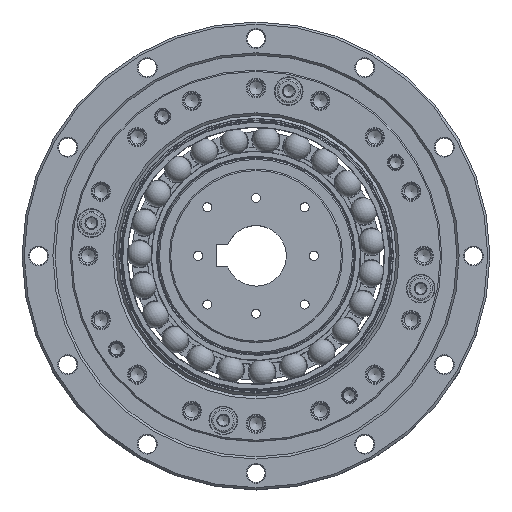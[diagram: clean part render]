
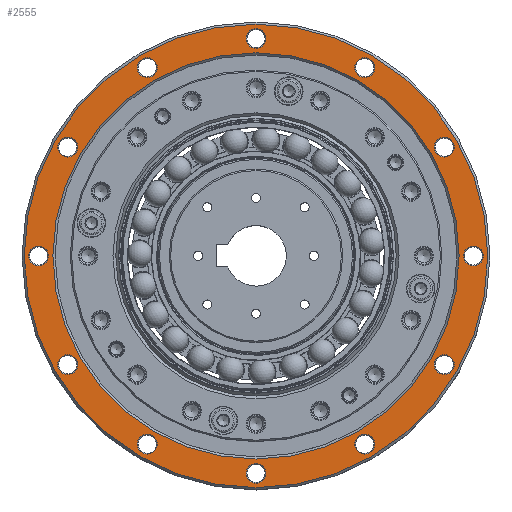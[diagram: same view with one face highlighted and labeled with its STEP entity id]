
A CAD part, top view. The second image highlights one B-rep face of the part: STEP entity #2555.
In plain terms, the highlighted planar face has unit normal (0, 0, 1).
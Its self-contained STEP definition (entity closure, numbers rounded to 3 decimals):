
#2555=ADVANCED_FACE('',(#3779,#3780,#3781,#3782,#3783,#3784,#3785,#3786,
#3787,#3788,#3789,#3790,#3791,#3792),#2972,.F.);
#2972=PLANE('',#11027);
#3779=FACE_BOUND('',#4854,.T.);
#3780=FACE_BOUND('',#4855,.T.);
#3781=FACE_BOUND('',#4856,.T.);
#3782=FACE_BOUND('',#4857,.T.);
#3783=FACE_BOUND('',#4858,.T.);
#3784=FACE_BOUND('',#4859,.T.);
#3785=FACE_BOUND('',#4860,.T.);
#3786=FACE_BOUND('',#4861,.T.);
#3787=FACE_BOUND('',#4862,.T.);
#3788=FACE_BOUND('',#4863,.T.);
#3789=FACE_BOUND('',#4864,.T.);
#3790=FACE_BOUND('',#4865,.T.);
#3791=FACE_BOUND('',#4866,.T.);
#3792=FACE_BOUND('',#4867,.T.);
#4854=EDGE_LOOP('',(#6103));
#4855=EDGE_LOOP('',(#6104));
#4856=EDGE_LOOP('',(#6105));
#4857=EDGE_LOOP('',(#6106));
#4858=EDGE_LOOP('',(#6107));
#4859=EDGE_LOOP('',(#6108));
#4860=EDGE_LOOP('',(#6109));
#4861=EDGE_LOOP('',(#6110));
#4862=EDGE_LOOP('',(#6111));
#4863=EDGE_LOOP('',(#6112));
#4864=EDGE_LOOP('',(#6113));
#4865=EDGE_LOOP('',(#6114));
#4866=EDGE_LOOP('',(#6115));
#4867=EDGE_LOOP('',(#6116));
#6103=ORIENTED_EDGE('',*,*,#8842,.T.);
#6104=ORIENTED_EDGE('',*,*,#8843,.T.);
#6105=ORIENTED_EDGE('',*,*,#8844,.T.);
#6106=ORIENTED_EDGE('',*,*,#8845,.T.);
#6107=ORIENTED_EDGE('',*,*,#8846,.T.);
#6108=ORIENTED_EDGE('',*,*,#8847,.T.);
#6109=ORIENTED_EDGE('',*,*,#8848,.T.);
#6110=ORIENTED_EDGE('',*,*,#8849,.T.);
#6111=ORIENTED_EDGE('',*,*,#8850,.T.);
#6112=ORIENTED_EDGE('',*,*,#8851,.T.);
#6113=ORIENTED_EDGE('',*,*,#8852,.T.);
#6114=ORIENTED_EDGE('',*,*,#8853,.T.);
#6115=ORIENTED_EDGE('',*,*,#8854,.F.);
#6116=ORIENTED_EDGE('',*,*,#8841,.T.);
#7936=VERTEX_POINT('',#16079);
#7937=VERTEX_POINT('',#16082);
#7938=VERTEX_POINT('',#16084);
#7939=VERTEX_POINT('',#16086);
#7940=VERTEX_POINT('',#16088);
#7941=VERTEX_POINT('',#16090);
#7942=VERTEX_POINT('',#16092);
#7943=VERTEX_POINT('',#16094);
#7944=VERTEX_POINT('',#16096);
#7945=VERTEX_POINT('',#16098);
#7946=VERTEX_POINT('',#16100);
#7947=VERTEX_POINT('',#16102);
#7948=VERTEX_POINT('',#16104);
#7949=VERTEX_POINT('',#16106);
#8841=EDGE_CURVE('',#7936,#7936,#9916,.T.);
#8842=EDGE_CURVE('',#7937,#7937,#9917,.T.);
#8843=EDGE_CURVE('',#7938,#7938,#9918,.T.);
#8844=EDGE_CURVE('',#7939,#7939,#9919,.T.);
#8845=EDGE_CURVE('',#7940,#7940,#9920,.T.);
#8846=EDGE_CURVE('',#7941,#7941,#9921,.T.);
#8847=EDGE_CURVE('',#7942,#7942,#9922,.T.);
#8848=EDGE_CURVE('',#7943,#7943,#9923,.T.);
#8849=EDGE_CURVE('',#7944,#7944,#9924,.T.);
#8850=EDGE_CURVE('',#7945,#7945,#9925,.T.);
#8851=EDGE_CURVE('',#7946,#7946,#9926,.T.);
#8852=EDGE_CURVE('',#7947,#7947,#9927,.T.);
#8853=EDGE_CURVE('',#7948,#7948,#9928,.T.);
#8854=EDGE_CURVE('',#7949,#7949,#9929,.T.);
#9916=CIRCLE('',#11012,73.8);
#9917=CIRCLE('',#11014,3.6);
#9918=CIRCLE('',#11015,3.6);
#9919=CIRCLE('',#11016,3.6);
#9920=CIRCLE('',#11017,3.6);
#9921=CIRCLE('',#11018,3.6);
#9922=CIRCLE('',#11019,3.6);
#9923=CIRCLE('',#11020,3.6);
#9924=CIRCLE('',#11021,3.6);
#9925=CIRCLE('',#11022,3.6);
#9926=CIRCLE('',#11023,3.6);
#9927=CIRCLE('',#11024,3.6);
#9928=CIRCLE('',#11025,3.6);
#9929=CIRCLE('',#11026,84.2);
#11012=AXIS2_PLACEMENT_3D('',#16078,#13157,#13158);
#11014=AXIS2_PLACEMENT_3D('',#16081,#13161,#13162);
#11015=AXIS2_PLACEMENT_3D('',#16083,#13163,#13164);
#11016=AXIS2_PLACEMENT_3D('',#16085,#13165,#13166);
#11017=AXIS2_PLACEMENT_3D('',#16087,#13167,#13168);
#11018=AXIS2_PLACEMENT_3D('',#16089,#13169,#13170);
#11019=AXIS2_PLACEMENT_3D('',#16091,#13171,#13172);
#11020=AXIS2_PLACEMENT_3D('',#16093,#13173,#13174);
#11021=AXIS2_PLACEMENT_3D('',#16095,#13175,#13176);
#11022=AXIS2_PLACEMENT_3D('',#16097,#13177,#13178);
#11023=AXIS2_PLACEMENT_3D('',#16099,#13179,#13180);
#11024=AXIS2_PLACEMENT_3D('',#16101,#13181,#13182);
#11025=AXIS2_PLACEMENT_3D('',#16103,#13183,#13184);
#11026=AXIS2_PLACEMENT_3D('',#16105,#13185,#13186);
#11027=AXIS2_PLACEMENT_3D('',#16107,#13187,#13188);
#13157=DIRECTION('',(0.,0.,-1.));
#13158=DIRECTION('',(-1.,0.,0.));
#13161=DIRECTION('',(0.,0.,-1.));
#13162=DIRECTION('',(-1.,0.,0.));
#13163=DIRECTION('',(0.,0.,-1.));
#13164=DIRECTION('',(-1.,0.,0.));
#13165=DIRECTION('',(0.,0.,-1.));
#13166=DIRECTION('',(-1.,0.,0.));
#13167=DIRECTION('',(0.,0.,-1.));
#13168=DIRECTION('',(-1.,0.,0.));
#13169=DIRECTION('',(0.,0.,-1.));
#13170=DIRECTION('',(-1.,0.,0.));
#13171=DIRECTION('',(0.,0.,-1.));
#13172=DIRECTION('',(-1.,0.,0.));
#13173=DIRECTION('',(0.,0.,-1.));
#13174=DIRECTION('',(-1.,0.,0.));
#13175=DIRECTION('',(0.,0.,-1.));
#13176=DIRECTION('',(-1.,0.,0.));
#13177=DIRECTION('',(0.,0.,-1.));
#13178=DIRECTION('',(-1.,0.,0.));
#13179=DIRECTION('',(0.,0.,-1.));
#13180=DIRECTION('',(-1.,0.,0.));
#13181=DIRECTION('',(0.,0.,-1.));
#13182=DIRECTION('',(-1.,0.,0.));
#13183=DIRECTION('',(0.,0.,-1.));
#13184=DIRECTION('',(-1.,0.,0.));
#13185=DIRECTION('',(0.,0.,-1.));
#13186=DIRECTION('',(-1.,0.,0.));
#13187=DIRECTION('',(0.,0.,-1.));
#13188=DIRECTION('',(-1.,0.,0.));
#16078=CARTESIAN_POINT('',(0.,0.,29.));
#16079=CARTESIAN_POINT('',(-73.8,0.,29.));
#16081=CARTESIAN_POINT('',(39.5,-68.416,29.));
#16082=CARTESIAN_POINT('',(35.9,-68.416,29.));
#16083=CARTESIAN_POINT('',(68.416,-39.5,29.));
#16084=CARTESIAN_POINT('',(64.816,-39.5,29.));
#16085=CARTESIAN_POINT('',(79.,0.,29.));
#16086=CARTESIAN_POINT('',(75.4,0.,29.));
#16087=CARTESIAN_POINT('',(68.416,39.5,29.));
#16088=CARTESIAN_POINT('',(64.816,39.5,29.));
#16089=CARTESIAN_POINT('',(39.5,68.416,29.));
#16090=CARTESIAN_POINT('',(35.9,68.416,29.));
#16091=CARTESIAN_POINT('',(0.,79.,29.));
#16092=CARTESIAN_POINT('',(-3.6,79.,29.));
#16093=CARTESIAN_POINT('',(-39.5,68.416,29.));
#16094=CARTESIAN_POINT('',(-43.1,68.416,29.));
#16095=CARTESIAN_POINT('',(-68.416,39.5,29.));
#16096=CARTESIAN_POINT('',(-72.016,39.5,29.));
#16097=CARTESIAN_POINT('',(-79.,0.,29.));
#16098=CARTESIAN_POINT('',(-82.6,0.,29.));
#16099=CARTESIAN_POINT('',(-68.416,-39.5,29.));
#16100=CARTESIAN_POINT('',(-72.016,-39.5,29.));
#16101=CARTESIAN_POINT('',(-39.5,-68.416,29.));
#16102=CARTESIAN_POINT('',(-43.1,-68.416,29.));
#16103=CARTESIAN_POINT('',(0.,-79.,29.));
#16104=CARTESIAN_POINT('',(-3.6,-79.,29.));
#16105=CARTESIAN_POINT('',(0.,0.,29.));
#16106=CARTESIAN_POINT('',(-84.2,0.,29.));
#16107=CARTESIAN_POINT('',(73.8,0.,29.));
